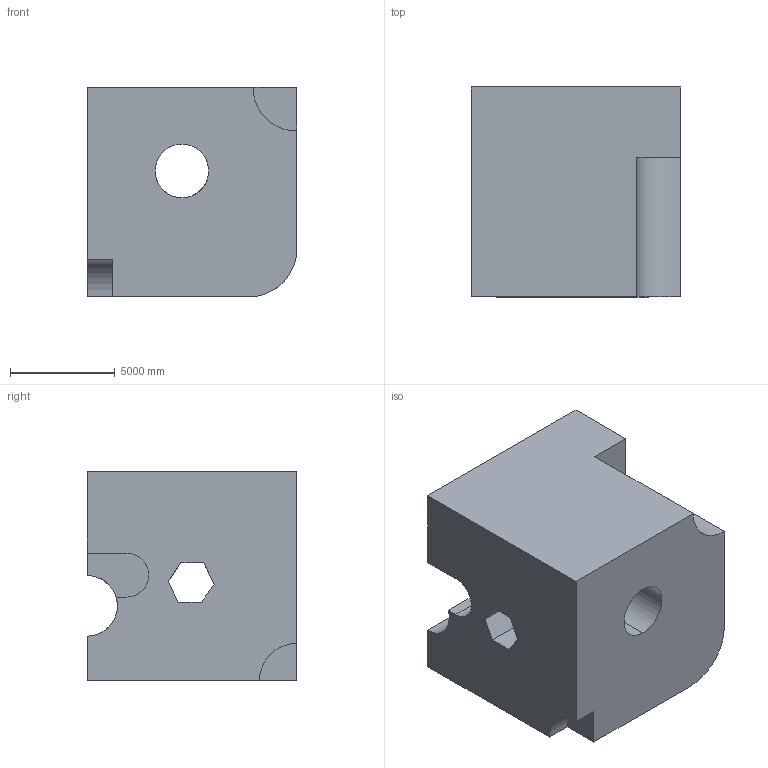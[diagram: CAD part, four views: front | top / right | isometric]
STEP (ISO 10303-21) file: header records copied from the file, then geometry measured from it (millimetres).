
FILE_DESCRIPTION (( 'STEP AP203' ), '1' );
FILE_NAME ('1647.STEP', '2022-08-19T11:20:10', ( 'user' ), ( '' ), 'SwSTEP 2.0', 'SolidWorks 2021', '' );
FILE_SCHEMA (( 'CONFIG_CONTROL_DESIGN' ));
Length unit declared in the file: centimetre
Products named in the file (1): 1647
Bounding box: 10000 x 10000 x 10000 mm (x, y, z)
Volume: 842915509090.6 mm3; surface area: 710462426.2 mm2
Topology: 1 solids, 1 shells, 27 faces, 84 edges, 56 vertices
Faces by surface type: plane 20, cylinder 7
Entity records: 1171 total; most frequent: CARTESIAN_POINT 341, ORIENTED_EDGE 168, DIRECTION 146, EDGE_CURVE 84, LINE 60, VECTOR 60, VERTEX_POINT 56, AXIS2_PLACEMENT_3D 43
